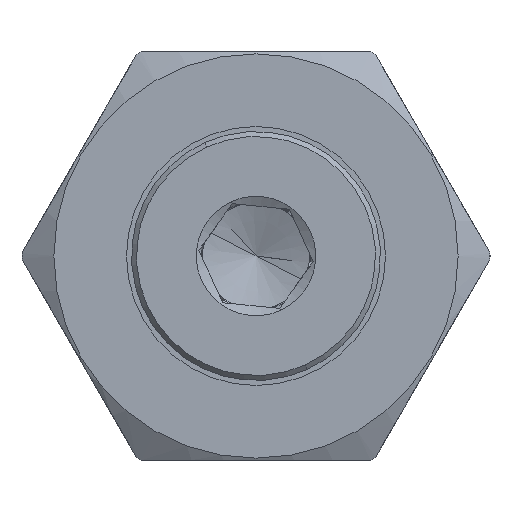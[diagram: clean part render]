
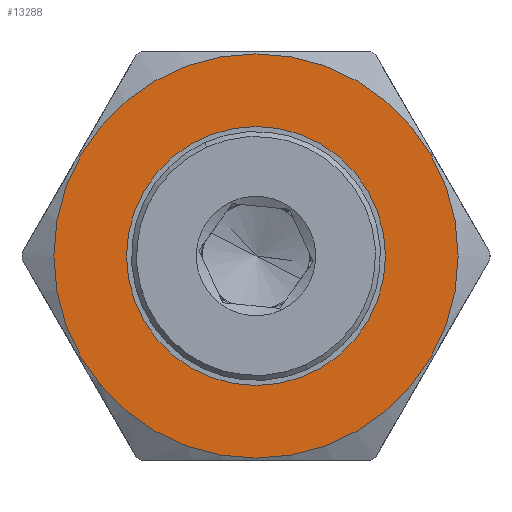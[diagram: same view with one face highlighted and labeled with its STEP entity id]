
A CAD part, left-side view. The second image highlights one B-rep face of the part: STEP entity #13288.
In plain terms, the highlighted planar face has unit normal (-1, 0, 0).
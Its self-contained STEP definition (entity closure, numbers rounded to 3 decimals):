
#217 = EDGE_CURVE ( 'NONE', #10796, #5650, #6714, .T. ) ;
#596 = DIRECTION ( 'NONE',  ( 0., 0., 1. ) ) ;
#723 = AXIS2_PLACEMENT_3D ( 'NONE', #991, #8746, #2067 ) ;
#821 = EDGE_LOOP ( 'NONE', ( #10064, #4821 ) ) ;
#991 = CARTESIAN_POINT ( 'NONE',  ( 0., 0., 0. ) ) ;
#1027 = DIRECTION ( 'NONE',  ( 0., 0., 1. ) ) ;
#1272 = CARTESIAN_POINT ( 'NONE',  ( 0., 0., 0. ) ) ;
#1788 = AXIS2_PLACEMENT_3D ( 'NONE', #10735, #4083, #11859 ) ;
#2067 = DIRECTION ( 'NONE',  ( 0., 0., 1. ) ) ;
#2374 = DIRECTION ( 'NONE',  ( 0., 0., 1. ) ) ;
#4083 = DIRECTION ( 'NONE',  ( -1., 0., 0. ) ) ;
#4487 = CIRCLE ( 'NONE', #1788, 13. ) ;
#4728 = EDGE_LOOP ( 'NONE', ( #5255, #14183 ) ) ;
#4821 = ORIENTED_EDGE ( 'NONE', *, *, #217, .T. ) ;
#5062 = EDGE_CURVE ( 'NONE', #5650, #10796, #14021, .T. ) ;
#5255 = ORIENTED_EDGE ( 'NONE', *, *, #8621, .F. ) ;
#5650 = VERTEX_POINT ( 'NONE', #6941 ) ;
#5858 = CARTESIAN_POINT ( 'NONE',  ( 0., 0., -13. ) ) ;
#6714 = CIRCLE ( 'NONE', #7423, 20.3 ) ;
#6941 = CARTESIAN_POINT ( 'NONE',  ( 0., 0., -20.3 ) ) ;
#7209 = DIRECTION ( 'NONE',  ( -1., 0., 0. ) ) ;
#7423 = AXIS2_PLACEMENT_3D ( 'NONE', #1272, #9048, #2374 ) ;
#7644 = DIRECTION ( 'NONE',  ( -1., 0., 0. ) ) ;
#8154 = CARTESIAN_POINT ( 'NONE',  ( 0., 0., 20.3 ) ) ;
#8621 = EDGE_CURVE ( 'NONE', #12318, #14080, #4487, .T. ) ;
#8746 = DIRECTION ( 'NONE',  ( -1., 0., 0. ) ) ;
#9001 = AXIS2_PLACEMENT_3D ( 'NONE', #13876, #7209, #596 ) ;
#9048 = DIRECTION ( 'NONE',  ( -1., 0., 0. ) ) ;
#9086 = CARTESIAN_POINT ( 'NONE',  ( 0., 0., 13. ) ) ;
#9414 = PLANE ( 'NONE',  #9001 ) ;
#9891 = CIRCLE ( 'NONE', #723, 13. ) ;
#10064 = ORIENTED_EDGE ( 'NONE', *, *, #5062, .T. ) ;
#10735 = CARTESIAN_POINT ( 'NONE',  ( 0., 0., 0. ) ) ;
#10796 = VERTEX_POINT ( 'NONE', #8154 ) ;
#10971 = FACE_BOUND ( 'NONE', #4728, .T. ) ;
#11088 = AXIS2_PLACEMENT_3D ( 'NONE', #14308, #7644, #1027 ) ;
#11859 = DIRECTION ( 'NONE',  ( 0., 0., 1. ) ) ;
#12318 = VERTEX_POINT ( 'NONE', #9086 ) ;
#13288 = ADVANCED_FACE ( 'NONE', ( #10971, #14296 ), #9414, .T. ) ;
#13757 = EDGE_CURVE ( 'NONE', #14080, #12318, #9891, .T. ) ;
#13876 = CARTESIAN_POINT ( 'NONE',  ( 0., 0., 0. ) ) ;
#14021 = CIRCLE ( 'NONE', #11088, 20.3 ) ;
#14080 = VERTEX_POINT ( 'NONE', #5858 ) ;
#14183 = ORIENTED_EDGE ( 'NONE', *, *, #13757, .F. ) ;
#14296 = FACE_OUTER_BOUND ( 'NONE', #821, .T. ) ;
#14308 = CARTESIAN_POINT ( 'NONE',  ( 0., 0., 0. ) ) ;
